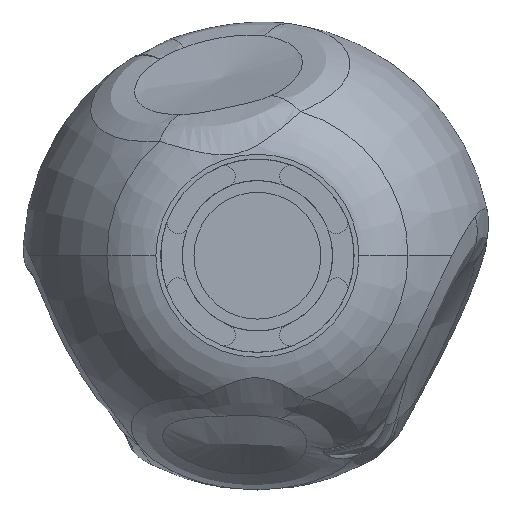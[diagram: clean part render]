
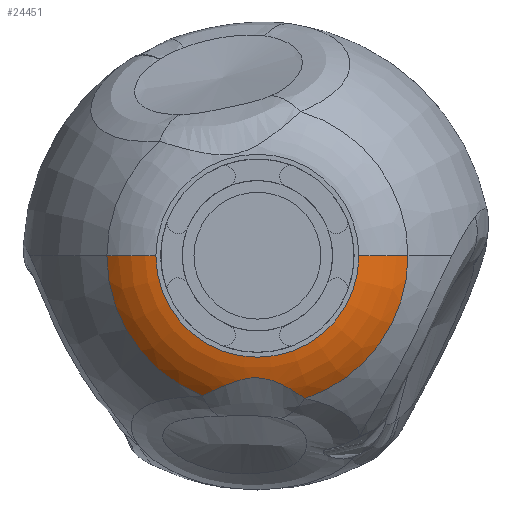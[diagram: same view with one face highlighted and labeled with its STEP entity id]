
A CAD part, front view. The second image highlights one B-rep face of the part: STEP entity #24451.
In plain terms, the highlighted toroidal (fillet/blend) face has major radius 41.414 mm and minor radius 50 mm.
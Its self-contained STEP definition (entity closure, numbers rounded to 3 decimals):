
#431 = DIRECTION ( 'NONE',  ( -1., 0., 0. ) ) ;
#1104 = CARTESIAN_POINT ( 'NONE',  ( -42.5, 9., 0. ) ) ;
#1194 = DIRECTION ( 'NONE',  ( 1., 0., 0. ) ) ;
#1314 = ORIENTED_EDGE ( 'NONE', *, *, #38947, .T. ) ;
#1518 = ORIENTED_EDGE ( 'NONE', *, *, #4787, .T. ) ;
#1948 = CARTESIAN_POINT ( 'NONE',  ( 8.498, 14.806, -64.268 ) ) ;
#2147 = CARTESIAN_POINT ( 'NONE',  ( 24.265, 23.988, -73.205 ) ) ;
#2344 = CARTESIAN_POINT ( 'NONE',  ( 11.915, 15.884, -65.685 ) ) ;
#2907 = CIRCLE ( 'NONE', #13229, 42.5 ) ;
#4488 = CARTESIAN_POINT ( 'NONE',  ( 0., 9., 0. ) ) ;
#4787 = EDGE_CURVE ( 'NONE', #19600, #32400, #29514, .T. ) ;
#4989 = CARTESIAN_POINT ( 'NONE',  ( -14.883, 16.26, -65.738 ) ) ;
#5185 = CARTESIAN_POINT ( 'NONE',  ( 10.804, 15.491, -65.187 ) ) ;
#6572 = CARTESIAN_POINT ( 'NONE',  ( -41.414, 58.988, 0. ) ) ;
#7396 = TOROIDAL_SURFACE ( 'NONE', #33789, 41.414, 50. ) ;
#7525 = CARTESIAN_POINT ( 'NONE',  ( 0., 9., 0. ) ) ;
#8225 = CARTESIAN_POINT ( 'NONE',  ( 10.239, 15.307, -64.946 ) ) ;
#8416 = CARTESIAN_POINT ( 'NONE',  ( -0.858, 13.668, -62.531 ) ) ;
#8615 = CARTESIAN_POINT ( 'NONE',  ( -11.408, 15.153, -64.485 ) ) ;
#9353 = CARTESIAN_POINT ( 'NONE',  ( -5.936, 14.016, -62.991 ) ) ;
#9409 = DIRECTION ( 'NONE',  ( 1., 0., 0. ) ) ;
#9551 = CARTESIAN_POINT ( 'NONE',  ( -21.431, 19.217, -68.462 ) ) ;
#11138 = DIRECTION ( 'NONE',  ( 0., -1., 0. ) ) ;
#11243 = CARTESIAN_POINT ( 'NONE',  ( -2.774, 13.701, -62.557 ) ) ;
#11831 = CARTESIAN_POINT ( 'NONE',  ( -6.565, 14.111, -63.124 ) ) ;
#12217 = EDGE_CURVE ( 'NONE', #32400, #21055, #38197, .T. ) ;
#12968 = DIRECTION ( 'NONE',  ( 0., -1., 0. ) ) ;
#13112 = AXIS2_PLACEMENT_3D ( 'NONE', #32244, #32445, #19499 ) ;
#13229 = AXIS2_PLACEMENT_3D ( 'NONE', #4488, #25304, #431 ) ;
#13473 = CARTESIAN_POINT ( 'NONE',  ( -28.232, 23.988, -71.768 ) ) ;
#13642 = DIRECTION ( 'NONE',  ( -1., 0., 0. ) ) ;
#13712 = EDGE_CURVE ( 'NONE', #20218, #38916, #22049, .T. ) ;
#14173 = EDGE_LOOP ( 'NONE', ( #32757, #38323, #1518, #35587, #1314, #18065, #26871 ) ) ;
#14182 = VERTEX_POINT ( 'NONE', #38342 ) ;
#14271 = CARTESIAN_POINT ( 'NONE',  ( 16.633, 18.063, -68.144 ) ) ;
#14670 = CARTESIAN_POINT ( 'NONE',  ( 15.119, 17.246, -67.283 ) ) ;
#16054 = DIRECTION ( 'NONE',  ( 0., 0., 1. ) ) ;
#16323 = CARTESIAN_POINT ( 'NONE',  ( 24.265, 23.988, -73.205 ) ) ;
#17075 = DIRECTION ( 'NONE',  ( 0., 0., -1. ) ) ;
#17306 = CARTESIAN_POINT ( 'NONE',  ( 9.088, 14.965, -64.487 ) ) ;
#17498 = CARTESIAN_POINT ( 'NONE',  ( -13.735, 15.863, -65.307 ) ) ;
#18065 = ORIENTED_EDGE ( 'NONE', *, *, #35781, .F. ) ;
#19499 = DIRECTION ( 'NONE',  ( 1., 0., 0. ) ) ;
#19600 = VERTEX_POINT ( 'NONE', #33861 ) ;
#20218 = VERTEX_POINT ( 'NONE', #36449 ) ;
#20357 = AXIS2_PLACEMENT_3D ( 'NONE', #7525, #12968, #32188 ) ;
#20548 = CARTESIAN_POINT ( 'NONE',  ( 18.109, 18.945, -69.025 ) ) ;
#20744 = CARTESIAN_POINT ( 'NONE',  ( 7.304, 14.521, -63.864 ) ) ;
#20757 = AXIS2_PLACEMENT_3D ( 'NONE', #6572, #16054, #9409 ) ;
#20943 = CARTESIAN_POINT ( 'NONE',  ( -4.044, 13.787, -62.672 ) ) ;
#21055 = VERTEX_POINT ( 'NONE', #35761 ) ;
#21635 = FACE_OUTER_BOUND ( 'NONE', #14173, .T. ) ;
#21687 = CARTESIAN_POINT ( 'NONE',  ( 14.079, 16.753, -66.727 ) ) ;
#22049 = CIRCLE ( 'NONE', #20757, 50. ) ;
#22677 = CIRCLE ( 'NONE', #24624, 50. ) ;
#23580 = CARTESIAN_POINT ( 'NONE',  ( -8.413, 14.446, -63.58 ) ) ;
#23967 = CARTESIAN_POINT ( 'NONE',  ( -17.139, 17.138, -66.625 ) ) ;
#24451 = ADVANCED_FACE ( 'NONE', ( #21635 ), #7396, .T. ) ;
#24624 = AXIS2_PLACEMENT_3D ( 'NONE', #32254, #17075, #13642 ) ;
#24905 = CARTESIAN_POINT ( 'NONE',  ( 4.871, 14.062, -63.19 ) ) ;
#25304 = DIRECTION ( 'NONE',  ( 0., -1., 0. ) ) ;
#25812 = CARTESIAN_POINT ( 'NONE',  ( -26.423, 22.406, -70.813 ) ) ;
#26278 = VERTEX_POINT ( 'NONE', #26807 ) ;
#26619 = CARTESIAN_POINT ( 'NONE',  ( 20.945, 20.865, -70.816 ) ) ;
#26807 = CARTESIAN_POINT ( 'NONE',  ( 42.5, 9., 0. ) ) ;
#26813 = CARTESIAN_POINT ( 'NONE',  ( 1.714, 13.751, -62.691 ) ) ;
#26871 = ORIENTED_EDGE ( 'NONE', *, *, #35651, .F. ) ;
#27953 = CARTESIAN_POINT ( 'NONE',  ( 3.623, 13.904, -62.944 ) ) ;
#28795 = EDGE_CURVE ( 'NONE', #20218, #19600, #30560, .T. ) ;
#28899 = DIRECTION ( 'NONE',  ( 0., -1., 0. ) ) ;
#29510 = CARTESIAN_POINT ( 'NONE',  ( 0., 58.988, 0. ) ) ;
#29514 = B_SPLINE_CURVE_WITH_KNOTS ( 'NONE', 3,
 ( #13473, #25812, #37259, #9551, #38958, #29650, #23967, #4989, #17498, #8615, #34019, #23580, #36322, #11831, #9353, #20943, #11243, #8416, #33284, #32695, #26813, #27953, #24905, #30044, #20744, #1948, #17306, #8225, #5185, #2344, #29850, #21687, #14670, #14271, #33089, #20548, #35929, #26619, #32887, #2147 ),
 .UNSPECIFIED., .F., .F.,
 ( 4, 2, 2, 2, 2, 2, 2, 2, 2, 2, 2, 2, 2, 2, 2, 2, 2, 2, 2, 4 ),
 ( 0., 0.008, 0.011, 0.015, 0.019, 0.023, 0.025, 0.027, 0.031, 0.032, 0.034, 0.038, 0.04, 0.042, 0.044, 0.046, 0.05, 0.052, 0.054, 0.061 ),
 .UNSPECIFIED. ) ;
#29650 = CARTESIAN_POINT ( 'NONE',  ( -18.237, 17.618, -67.081 ) ) ;
#29850 = CARTESIAN_POINT ( 'NONE',  ( 12.463, 16.091, -65.94 ) ) ;
#30044 = CARTESIAN_POINT ( 'NONE',  ( 6.701, 14.394, -63.68 ) ) ;
#30560 = CIRCLE ( 'NONE', #13112, 77.121 ) ;
#32188 = DIRECTION ( 'NONE',  ( -1., 0., 0. ) ) ;
#32244 = CARTESIAN_POINT ( 'NONE',  ( 0., 23.988, 0. ) ) ;
#32254 = CARTESIAN_POINT ( 'NONE',  ( 41.414, 58.988, 0. ) ) ;
#32400 = VERTEX_POINT ( 'NONE', #16323 ) ;
#32445 = DIRECTION ( 'NONE',  ( 0., -1., 0. ) ) ;
#32695 = CARTESIAN_POINT ( 'NONE',  ( 1.068, 13.714, -62.627 ) ) ;
#32757 = ORIENTED_EDGE ( 'NONE', *, *, #13712, .F. ) ;
#32887 = CARTESIAN_POINT ( 'NONE',  ( 22.675, 22.332, -72.021 ) ) ;
#33038 = AXIS2_PLACEMENT_3D ( 'NONE', #38459, #11138, #35822 ) ;
#33089 = CARTESIAN_POINT ( 'NONE',  ( 17.13, 18.348, -68.435 ) ) ;
#33284 = CARTESIAN_POINT ( 'NONE',  ( -0.217, 13.672, -62.547 ) ) ;
#33789 = AXIS2_PLACEMENT_3D ( 'NONE', #29510, #28899, #1194 ) ;
#33861 = CARTESIAN_POINT ( 'NONE',  ( -28.232, 23.988, -71.768 ) ) ;
#34019 = CARTESIAN_POINT ( 'NONE',  ( -10.226, 14.842, -64.096 ) ) ;
#35587 = ORIENTED_EDGE ( 'NONE', *, *, #12217, .T. ) ;
#35651 = EDGE_CURVE ( 'NONE', #38916, #14182, #37774, .T. ) ;
#35761 = CARTESIAN_POINT ( 'NONE',  ( 77.121, 23.988, 0. ) ) ;
#35781 = EDGE_CURVE ( 'NONE', #14182, #26278, #2907, .T. ) ;
#35822 = DIRECTION ( 'NONE',  ( 1., 0., 0. ) ) ;
#35929 = CARTESIAN_POINT ( 'NONE',  ( 18.591, 19.256, -69.324 ) ) ;
#36322 = CARTESIAN_POINT ( 'NONE',  ( -7.802, 14.326, -63.419 ) ) ;
#36449 = CARTESIAN_POINT ( 'NONE',  ( -77.121, 23.988, 0. ) ) ;
#37259 = CARTESIAN_POINT ( 'NONE',  ( -24.492, 21.026, -69.863 ) ) ;
#37774 = CIRCLE ( 'NONE', #20357, 42.5 ) ;
#38197 = CIRCLE ( 'NONE', #33038, 77.121 ) ;
#38323 = ORIENTED_EDGE ( 'NONE', *, *, #28795, .T. ) ;
#38342 = CARTESIAN_POINT ( 'NONE',  ( 0., 9., -42.5 ) ) ;
#38459 = CARTESIAN_POINT ( 'NONE',  ( 0., 23.988, 0. ) ) ;
#38916 = VERTEX_POINT ( 'NONE', #1104 ) ;
#38947 = EDGE_CURVE ( 'NONE', #21055, #26278, #22677, .T. ) ;
#38958 = CARTESIAN_POINT ( 'NONE',  ( -20.382, 18.658, -68. ) ) ;
